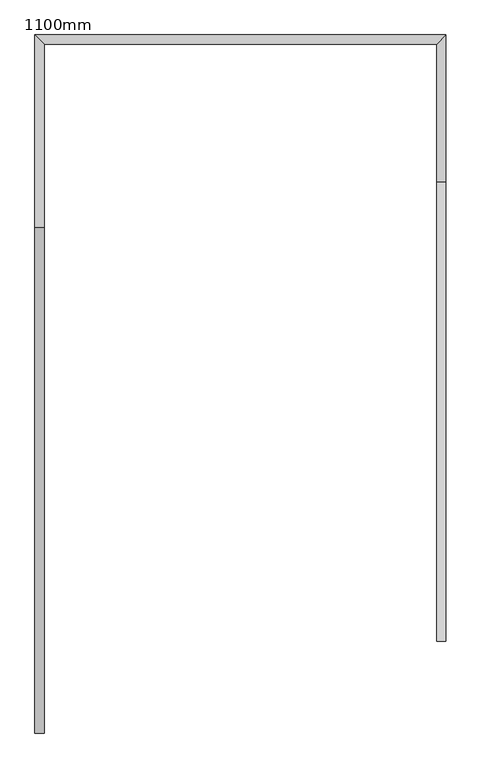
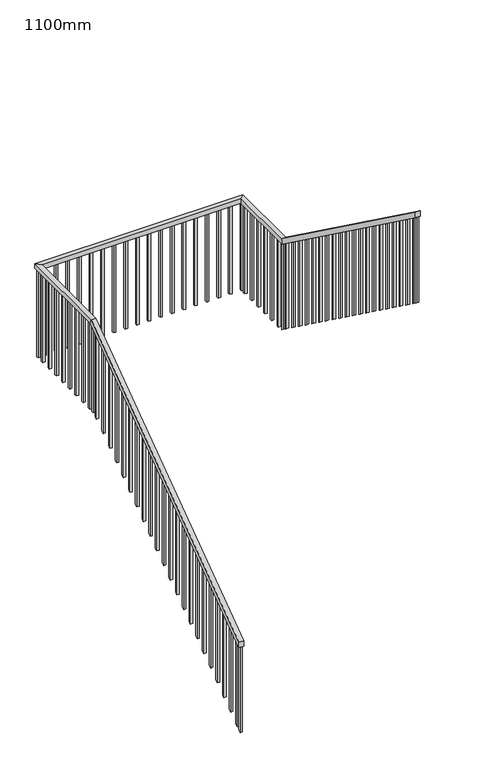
"""IFC4 building model written with IfcOpenShell, lengths in millimetres: railing geometry, 1100mm."""

from ifc_helpers import new_model, si_unit, frame, origin, place, context, project, spatial, polyline, outline, extrude, faceted_brep, source, transform, mapped, element, save


def railing_1100mm_276dff7a(model_context):
    return source(origin(), model_context, "Body", "SolidModel", [
        faceted_brep([(34182.0703633, 2041.5551306, 1281.8181818), (34182.0703633, 2041.5551306, 1219.9933159), (34232.0703633, 2041.5551306, 1219.9933159), (34232.0703633, 2041.5551306, 1281.8181818), (34182.0703633, 4791.5551306, 3281.8181818), (34182.0703633, 4807.8143213, 3231.8181818), (34232.0703633, 4807.8143213, 3231.8181818), (34232.0703633, 4791.5551306, 3281.8181818), (34182.0703633, 5841.5551306, 3281.8181818), (34182.0703633, 5841.5551306, 3231.8181818), (34232.0703633, 5791.5551306, 3231.8181818), (34232.0703633, 5791.5551306, 3281.8181818), (36419.9255273, 5841.5551306, 3281.8181818), (36419.9255273, 5841.5551306, 3231.8181818), (36369.9255273, 5791.5551306, 3231.8181818), (36369.9255273, 5791.5551306, 3281.8181818), (36419.9255273, 5041.5551306, 3281.8181818), (36419.9255273, 5025.2959399, 3231.8181818), (36369.9255273, 5025.2959399, 3231.8181818), (36369.9255273, 5041.5551306, 3281.8181818), (36419.9255273, 2541.5551306, 5100.0), (36369.9255273, 2541.5551306, 5100.0), (36369.9255273, 2541.5551306, 5038.1751341), (36419.9255273, 2541.5551306, 5038.1751341)], [[[0, 1, 2, 3]], [[1, 0, 4, 5]], [[2, 1, 5, 6]], [[3, 2, 6, 7]], [[0, 3, 7, 4]], [[5, 4, 8, 9]], [[6, 5, 9, 10]], [[7, 6, 10, 11]], [[4, 7, 11, 8]], [[9, 8, 12, 13]], [[10, 9, 13, 14]], [[11, 10, 14, 15]], [[8, 11, 15, 12]], [[13, 12, 16, 17]], [[14, 13, 17, 18]], [[15, 14, 18, 19]], [[12, 15, 19, 16]], [[20, 21, 22, 23]], [[17, 16, 20, 23]], [[18, 17, 23, 22]], [[19, 18, 22, 21]], [[16, 19, 21, 20]]]),
        extrude(outline(polyline([(2616.5551306, 4011.1967897), (2591.5551306, 4029.3786078), (2591.5551306, 5001.8114977), (2616.5551306, 4983.6296795), (2616.5551306, 4011.1967897)])), frame((36382.4255273, 0.0, 0.0), z_axis=(1.0, 0.0, 0.0), x_axis=(0.0, 1.0, 0.0)), (0.0, 0.0, 1.0), 25.0),
        extrude(outline(polyline([(2741.5551306, 3920.2876987), (2716.5551306, 3938.4695169), (2716.5551306, 4910.9024068), (2741.5551306, 4892.7205886), (2741.5551306, 3920.2876987)])), frame((36382.4255273, 0.0, 0.0), z_axis=(1.0, 0.0, 0.0), x_axis=(0.0, 1.0, 0.0)), (0.0, 0.0, 1.0), 25.0),
        extrude(outline(polyline([(2866.5551306, 3829.3786078), (2841.5551306, 3847.560426), (2841.5551306, 4819.9933159), (2866.5551306, 4801.8114977), (2866.5551306, 3829.3786078)])), frame((36382.4255273, 0.0, 0.0), z_axis=(1.0, 0.0, 0.0), x_axis=(0.0, 1.0, 0.0)), (0.0, 0.0, 1.0), 25.0),
        extrude(outline(polyline([(2991.5551306, 3738.4695169), (2966.5551306, 3756.6513351), (2966.5551306, 4729.084225), (2991.5551306, 4710.9024068), (2991.5551306, 3738.4695169)])), frame((36382.4255273, 0.0, 0.0), z_axis=(1.0, 0.0, 0.0), x_axis=(0.0, 1.0, 0.0)), (0.0, 0.0, 1.0), 25.0),
        extrude(outline(polyline([(3116.5551306, 3647.560426), (3091.5551306, 3665.7422442), (3091.5551306, 4638.1751341), (3116.5551306, 4619.9933159), (3116.5551306, 3647.560426)])), frame((36382.4255273, 0.0, 0.0), z_axis=(1.0, 0.0, 0.0), x_axis=(0.0, 1.0, 0.0)), (0.0, 0.0, 1.0), 25.0),
        extrude(outline(polyline([(3241.5551306, 3556.6513351), (3216.5551306, 3574.8331533), (3216.5551306, 4547.2660431), (3241.5551306, 4529.084225), (3241.5551306, 3556.6513351)])), frame((36382.4255273, 0.0, 0.0), z_axis=(1.0, 0.0, 0.0), x_axis=(0.0, 1.0, 0.0)), (0.0, 0.0, 1.0), 25.0),
        extrude(outline(polyline([(3366.5551306, 3465.7422442), (3341.5551306, 3483.9240624), (3341.5551306, 4456.3569522), (3366.5551306, 4438.1751341), (3366.5551306, 3465.7422442)])), frame((36382.4255273, 0.0, 0.0), z_axis=(1.0, 0.0, 0.0), x_axis=(0.0, 1.0, 0.0)), (0.0, 0.0, 1.0), 25.0),
        extrude(outline(polyline([(3491.5551306, 3374.8331533), (3466.5551306, 3393.0149715), (3466.5551306, 4365.4478613), (3491.5551306, 4347.2660431), (3491.5551306, 3374.8331533)])), frame((36382.4255273, 0.0, 0.0), z_axis=(1.0, 0.0, 0.0), x_axis=(0.0, 1.0, 0.0)), (0.0, 0.0, 1.0), 25.0),
        extrude(outline(polyline([(3616.5551306, 3283.9240624), (3591.5551306, 3302.1058806), (3591.5551306, 4274.5387704), (3616.5551306, 4256.3569522), (3616.5551306, 3283.9240624)])), frame((36382.4255273, 0.0, 0.0), z_axis=(1.0, 0.0, 0.0), x_axis=(0.0, 1.0, 0.0)), (0.0, 0.0, 1.0), 25.0),
        extrude(outline(polyline([(3741.5551306, 3193.0149715), (3716.5551306, 3211.1967897), (3716.5551306, 4183.6296795), (3741.5551306, 4165.4478613), (3741.5551306, 3193.0149715)])), frame((36382.4255273, 0.0, 0.0), z_axis=(1.0, 0.0, 0.0), x_axis=(0.0, 1.0, 0.0)), (0.0, 0.0, 1.0), 25.0),
        extrude(outline(polyline([(3866.5551306, 3102.1058806), (3841.5551306, 3120.2876987), (3841.5551306, 4092.7205886), (3866.5551306, 4074.5387704), (3866.5551306, 3102.1058806)])), frame((36382.4255273, 0.0, 0.0), z_axis=(1.0, 0.0, 0.0), x_axis=(0.0, 1.0, 0.0)), (0.0, 0.0, 1.0), 25.0),
        extrude(outline(polyline([(3991.5551306, 3011.1967897), (3966.5551306, 3029.3786078), (3966.5551306, 4001.8114977), (3991.5551306, 3983.6296795), (3991.5551306, 3011.1967897)])), frame((36382.4255273, 0.0, 0.0), z_axis=(1.0, 0.0, 0.0), x_axis=(0.0, 1.0, 0.0)), (0.0, 0.0, 1.0), 25.0),
        extrude(outline(polyline([(4116.5551306, 2920.2876987), (4091.5551306, 2938.4695169), (4091.5551306, 3910.9024068), (4116.5551306, 3892.7205886), (4116.5551306, 2920.2876987)])), frame((36382.4255273, 0.0, 0.0), z_axis=(1.0, 0.0, 0.0), x_axis=(0.0, 1.0, 0.0)), (0.0, 0.0, 1.0), 25.0),
        extrude(outline(polyline([(4241.5551306, 2829.3786078), (4216.5551306, 2847.560426), (4216.5551306, 3819.9933159), (4241.5551306, 3801.8114977), (4241.5551306, 2829.3786078)])), frame((36382.4255273, 0.0, 0.0), z_axis=(1.0, 0.0, 0.0), x_axis=(0.0, 1.0, 0.0)), (0.0, 0.0, 1.0), 25.0),
        extrude(outline(polyline([(4366.5551306, 2738.4695169), (4341.5551306, 2756.6513351), (4341.5551306, 3729.084225), (4366.5551306, 3710.9024068), (4366.5551306, 2738.4695169)])), frame((36382.4255273, 0.0, 0.0), z_axis=(1.0, 0.0, 0.0), x_axis=(0.0, 1.0, 0.0)), (0.0, 0.0, 1.0), 25.0),
        extrude(outline(polyline([(4491.5551306, 2647.560426), (4466.5551306, 2665.7422442), (4466.5551306, 3638.1751341), (4491.5551306, 3619.9933159), (4491.5551306, 2647.560426)])), frame((36382.4255273, 0.0, 0.0), z_axis=(1.0, 0.0, 0.0), x_axis=(0.0, 1.0, 0.0)), (0.0, 0.0, 1.0), 25.0),
        extrude(outline(polyline([(4616.5551306, 2556.6513351), (4591.5551306, 2574.8331533), (4591.5551306, 3547.2660431), (4616.5551306, 3529.084225), (4616.5551306, 2556.6513351)])), frame((36382.4255273, 0.0, 0.0), z_axis=(1.0, 0.0, 0.0), x_axis=(0.0, 1.0, 0.0)), (0.0, 0.0, 1.0), 25.0),
        extrude(outline(polyline([(4741.5551306, 2465.7422442), (4716.5551306, 2483.9240624), (4716.5551306, 3456.3569522), (4741.5551306, 3438.1751341), (4741.5551306, 2465.7422442)])), frame((36382.4255273, 0.0, 0.0), z_axis=(1.0, 0.0, 0.0), x_axis=(0.0, 1.0, 0.0)), (0.0, 0.0, 1.0), 25.0),
        extrude(outline(polyline([(4866.5551306, 2374.8331533), (4841.5551306, 2393.0149715), (4841.5551306, 3365.4478613), (4866.5551306, 3347.2660431), (4866.5551306, 2374.8331533)])), frame((36382.4255273, 0.0, 0.0), z_axis=(1.0, 0.0, 0.0), x_axis=(0.0, 1.0, 0.0)), (0.0, 0.0, 1.0), 25.0),
        extrude(outline(polyline([(4991.5551306, 2283.9240624), (4966.5551306, 2302.1058806), (4966.5551306, 3274.5387704), (4991.5551306, 3256.3569522), (4991.5551306, 2283.9240624)])), frame((36382.4255273, 0.0, 0.0), z_axis=(1.0, 0.0, 0.0), x_axis=(0.0, 1.0, 0.0)), (0.0, 0.0, 1.0), 25.0),
        extrude(outline(polyline([(36407.4255273, 5141.5551306), (36407.4255273, 5116.5551306), (36382.4255273, 5116.5551306), (36382.4255273, 5141.5551306), (36407.4255273, 5141.5551306)])), frame((0.0, 0.0, 2228.5473649), z_axis=(0.0, 0.0, 1.0), x_axis=(1.0, 0.0, 0.0)), (0.0, 0.0, 1.0), 1003.2708169),
        extrude(outline(polyline([(36407.4255273, 5266.5551306), (36407.4255273, 5241.5551306), (36382.4255273, 5241.5551306), (36382.4255273, 5266.5551306), (36407.4255273, 5266.5551306)])), frame((0.0, 0.0, 2228.5473649), z_axis=(0.0, 0.0, 1.0), x_axis=(1.0, 0.0, 0.0)), (0.0, 0.0, 1.0), 1003.2708169),
        extrude(outline(polyline([(36407.4255273, 5391.5551306), (36407.4255273, 5366.5551306), (36382.4255273, 5366.5551306), (36382.4255273, 5391.5551306), (36407.4255273, 5391.5551306)])), frame((0.0, 0.0, 2228.5473649), z_axis=(0.0, 0.0, 1.0), x_axis=(1.0, 0.0, 0.0)), (0.0, 0.0, 1.0), 1003.2708169),
        extrude(outline(polyline([(36407.4255273, 5516.5551306), (36407.4255273, 5491.5551306), (36382.4255273, 5491.5551306), (36382.4255273, 5516.5551306), (36407.4255273, 5516.5551306)])), frame((0.0, 0.0, 2228.5473649), z_axis=(0.0, 0.0, 1.0), x_axis=(1.0, 0.0, 0.0)), (0.0, 0.0, 1.0), 1003.2708169),
        extrude(outline(polyline([(36407.4255273, 5641.5551306), (36407.4255273, 5616.5551306), (36382.4255273, 5616.5551306), (36382.4255273, 5641.5551306), (36407.4255273, 5641.5551306)])), frame((0.0, 0.0, 2228.5473649), z_axis=(0.0, 0.0, 1.0), x_axis=(1.0, 0.0, 0.0)), (0.0, 0.0, 1.0), 1003.2708169),
        extrude(outline(polyline([(36407.4255273, 5766.5551306), (36407.4255273, 5741.5551306), (36382.4255273, 5741.5551306), (36382.4255273, 5766.5551306), (36407.4255273, 5766.5551306)])), frame((0.0, 0.0, 2228.5473649), z_axis=(0.0, 0.0, 1.0), x_axis=(1.0, 0.0, 0.0)), (0.0, 0.0, 1.0), 1003.2708169),
        extrude(outline(polyline([(36382.0703633, 5829.0551306), (36407.0703633, 5829.0551306), (36407.0703633, 5804.0551306), (36382.0703633, 5804.0551306), (36382.0703633, 5829.0551306)])), frame((0.0, 0.0, 2228.5473649), z_axis=(0.0, 0.0, 1.0), x_axis=(1.0, 0.0, 0.0)), (0.0, 0.0, 1.0), 1003.2708169),
        extrude(outline(polyline([(36257.0703633, 5829.0551306), (36282.0703633, 5829.0551306), (36282.0703633, 5804.0551306), (36257.0703633, 5804.0551306), (36257.0703633, 5829.0551306)])), frame((0.0, 0.0, 2228.5473649), z_axis=(0.0, 0.0, 1.0), x_axis=(1.0, 0.0, 0.0)), (0.0, 0.0, 1.0), 1003.2708169),
        extrude(outline(polyline([(36132.0703633, 5829.0551306), (36157.0703633, 5829.0551306), (36157.0703633, 5804.0551306), (36132.0703633, 5804.0551306), (36132.0703633, 5829.0551306)])), frame((0.0, 0.0, 2228.5473649), z_axis=(0.0, 0.0, 1.0), x_axis=(1.0, 0.0, 0.0)), (0.0, 0.0, 1.0), 1003.2708169),
        extrude(outline(polyline([(36007.0703633, 5829.0551306), (36032.0703633, 5829.0551306), (36032.0703633, 5804.0551306), (36007.0703633, 5804.0551306), (36007.0703633, 5829.0551306)])), frame((0.0, 0.0, 2228.5473649), z_axis=(0.0, 0.0, 1.0), x_axis=(1.0, 0.0, 0.0)), (0.0, 0.0, 1.0), 1003.2708169),
        extrude(outline(polyline([(35882.0703633, 5829.0551306), (35907.0703633, 5829.0551306), (35907.0703633, 5804.0551306), (35882.0703633, 5804.0551306), (35882.0703633, 5829.0551306)])), frame((0.0, 0.0, 2228.5473649), z_axis=(0.0, 0.0, 1.0), x_axis=(1.0, 0.0, 0.0)), (0.0, 0.0, 1.0), 1003.2708169),
        extrude(outline(polyline([(35757.0703633, 5829.0551306), (35782.0703633, 5829.0551306), (35782.0703633, 5804.0551306), (35757.0703633, 5804.0551306), (35757.0703633, 5829.0551306)])), frame((0.0, 0.0, 2228.5473649), z_axis=(0.0, 0.0, 1.0), x_axis=(1.0, 0.0, 0.0)), (0.0, 0.0, 1.0), 1003.2708169),
        extrude(outline(polyline([(35632.0703633, 5829.0551306), (35657.0703633, 5829.0551306), (35657.0703633, 5804.0551306), (35632.0703633, 5804.0551306), (35632.0703633, 5829.0551306)])), frame((0.0, 0.0, 2228.5473649), z_axis=(0.0, 0.0, 1.0), x_axis=(1.0, 0.0, 0.0)), (0.0, 0.0, 1.0), 1003.2708169),
        extrude(outline(polyline([(35507.0703633, 5829.0551306), (35532.0703633, 5829.0551306), (35532.0703633, 5804.0551306), (35507.0703633, 5804.0551306), (35507.0703633, 5829.0551306)])), frame((0.0, 0.0, 2228.5473649), z_axis=(0.0, 0.0, 1.0), x_axis=(1.0, 0.0, 0.0)), (0.0, 0.0, 1.0), 1003.2708169),
        extrude(outline(polyline([(35382.0703633, 5829.0551306), (35407.0703633, 5829.0551306), (35407.0703633, 5804.0551306), (35382.0703633, 5804.0551306), (35382.0703633, 5829.0551306)])), frame((0.0, 0.0, 2228.5473649), z_axis=(0.0, 0.0, 1.0), x_axis=(1.0, 0.0, 0.0)), (0.0, 0.0, 1.0), 1003.2708169),
        extrude(outline(polyline([(35257.0703633, 5829.0551306), (35282.0703633, 5829.0551306), (35282.0703633, 5804.0551306), (35257.0703633, 5804.0551306), (35257.0703633, 5829.0551306)])), frame((0.0, 0.0, 2228.5473649), z_axis=(0.0, 0.0, 1.0), x_axis=(1.0, 0.0, 0.0)), (0.0, 0.0, 1.0), 1003.2708169),
        extrude(outline(polyline([(35132.0703633, 5829.0551306), (35157.0703633, 5829.0551306), (35157.0703633, 5804.0551306), (35132.0703633, 5804.0551306), (35132.0703633, 5829.0551306)])), frame((0.0, 0.0, 2228.5473649), z_axis=(0.0, 0.0, 1.0), x_axis=(1.0, 0.0, 0.0)), (0.0, 0.0, 1.0), 1003.2708169),
        extrude(outline(polyline([(35007.0703633, 5829.0551306), (35032.0703633, 5829.0551306), (35032.0703633, 5804.0551306), (35007.0703633, 5804.0551306), (35007.0703633, 5829.0551306)])), frame((0.0, 0.0, 2228.5473649), z_axis=(0.0, 0.0, 1.0), x_axis=(1.0, 0.0, 0.0)), (0.0, 0.0, 1.0), 1003.2708169),
        extrude(outline(polyline([(34882.0703633, 5829.0551306), (34907.0703633, 5829.0551306), (34907.0703633, 5804.0551306), (34882.0703633, 5804.0551306), (34882.0703633, 5829.0551306)])), frame((0.0, 0.0, 2228.5473649), z_axis=(0.0, 0.0, 1.0), x_axis=(1.0, 0.0, 0.0)), (0.0, 0.0, 1.0), 1003.2708169),
        extrude(outline(polyline([(34757.0703633, 5829.0551306), (34782.0703633, 5829.0551306), (34782.0703633, 5804.0551306), (34757.0703633, 5804.0551306), (34757.0703633, 5829.0551306)])), frame((0.0, 0.0, 2228.5473649), z_axis=(0.0, 0.0, 1.0), x_axis=(1.0, 0.0, 0.0)), (0.0, 0.0, 1.0), 1003.2708169),
        extrude(outline(polyline([(34632.0703633, 5829.0551306), (34657.0703633, 5829.0551306), (34657.0703633, 5804.0551306), (34632.0703633, 5804.0551306), (34632.0703633, 5829.0551306)])), frame((0.0, 0.0, 2228.5473649), z_axis=(0.0, 0.0, 1.0), x_axis=(1.0, 0.0, 0.0)), (0.0, 0.0, 1.0), 1003.2708169),
        extrude(outline(polyline([(34507.0703633, 5829.0551306), (34532.0703633, 5829.0551306), (34532.0703633, 5804.0551306), (34507.0703633, 5804.0551306), (34507.0703633, 5829.0551306)])), frame((0.0, 0.0, 2228.5473649), z_axis=(0.0, 0.0, 1.0), x_axis=(1.0, 0.0, 0.0)), (0.0, 0.0, 1.0), 1003.2708169),
        extrude(outline(polyline([(34382.0703633, 5829.0551306), (34407.0703633, 5829.0551306), (34407.0703633, 5804.0551306), (34382.0703633, 5804.0551306), (34382.0703633, 5829.0551306)])), frame((0.0, 0.0, 2228.5473649), z_axis=(0.0, 0.0, 1.0), x_axis=(1.0, 0.0, 0.0)), (0.0, 0.0, 1.0), 1003.2708169),
        extrude(outline(polyline([(34257.0703633, 5829.0551306), (34282.0703633, 5829.0551306), (34282.0703633, 5804.0551306), (34257.0703633, 5804.0551306), (34257.0703633, 5829.0551306)])), frame((0.0, 0.0, 2228.5473649), z_axis=(0.0, 0.0, 1.0), x_axis=(1.0, 0.0, 0.0)), (0.0, 0.0, 1.0), 1003.2708169),
        extrude(outline(polyline([(34194.5703633, 5716.5551306), (34194.5703633, 5741.5551306), (34219.5703633, 5741.5551306), (34219.5703633, 5716.5551306), (34194.5703633, 5716.5551306)])), frame((0.0, 0.0, 2228.5473649), z_axis=(0.0, 0.0, 1.0), x_axis=(1.0, 0.0, 0.0)), (0.0, 0.0, 1.0), 1003.2708169),
        extrude(outline(polyline([(34194.5703633, 5591.5551306), (34194.5703633, 5616.5551306), (34219.5703633, 5616.5551306), (34219.5703633, 5591.5551306), (34194.5703633, 5591.5551306)])), frame((0.0, 0.0, 2228.5473649), z_axis=(0.0, 0.0, 1.0), x_axis=(1.0, 0.0, 0.0)), (0.0, 0.0, 1.0), 1003.2708169),
        extrude(outline(polyline([(34194.5703633, 5466.5551306), (34194.5703633, 5491.5551306), (34219.5703633, 5491.5551306), (34219.5703633, 5466.5551306), (34194.5703633, 5466.5551306)])), frame((0.0, 0.0, 2228.5473649), z_axis=(0.0, 0.0, 1.0), x_axis=(1.0, 0.0, 0.0)), (0.0, 0.0, 1.0), 1003.2708169),
        extrude(outline(polyline([(34194.5703633, 5341.5551306), (34194.5703633, 5366.5551306), (34219.5703633, 5366.5551306), (34219.5703633, 5341.5551306), (34194.5703633, 5341.5551306)])), frame((0.0, 0.0, 2228.5473649), z_axis=(0.0, 0.0, 1.0), x_axis=(1.0, 0.0, 0.0)), (0.0, 0.0, 1.0), 1003.2708169),
        extrude(outline(polyline([(34194.5703633, 5216.5551306), (34194.5703633, 5241.5551306), (34219.5703633, 5241.5551306), (34219.5703633, 5216.5551306), (34194.5703633, 5216.5551306)])), frame((0.0, 0.0, 2228.5473649), z_axis=(0.0, 0.0, 1.0), x_axis=(1.0, 0.0, 0.0)), (0.0, 0.0, 1.0), 1003.2708169),
        extrude(outline(polyline([(34194.5703633, 5091.5551306), (34194.5703633, 5116.5551306), (34219.5703633, 5116.5551306), (34219.5703633, 5091.5551306), (34194.5703633, 5091.5551306)])), frame((0.0, 0.0, 2228.5473649), z_axis=(0.0, 0.0, 1.0), x_axis=(1.0, 0.0, 0.0)), (0.0, 0.0, 1.0), 1003.2708169),
        extrude(outline(polyline([(34194.5703633, 4966.5551306), (34194.5703633, 4991.5551306), (34219.5703633, 4991.5551306), (34219.5703633, 4966.5551306), (34194.5703633, 4966.5551306)])), frame((0.0, 0.0, 2228.5473649), z_axis=(0.0, 0.0, 1.0), x_axis=(1.0, 0.0, 0.0)), (0.0, 0.0, 1.0), 1003.2708169),
        extrude(outline(polyline([(34194.5703633, 4841.5551306), (34194.5703633, 4866.5551306), (34219.5703633, 4866.5551306), (34219.5703633, 4841.5551306), (34194.5703633, 4841.5551306)])), frame((0.0, 0.0, 2228.5473649), z_axis=(0.0, 0.0, 1.0), x_axis=(1.0, 0.0, 0.0)), (0.0, 0.0, 1.0), 1003.2708169),
        extrude(outline(polyline([(4716.5551306, 3165.4478613), (4741.5551306, 3183.6296795), (4741.5551306, 2211.1967897), (4716.5551306, 2193.0149715), (4716.5551306, 3165.4478613)])), frame((34194.5703633, 0.0, 0.0), z_axis=(1.0, 0.0, 0.0), x_axis=(0.0, 1.0, 0.0)), (0.0, 0.0, 1.0), 25.0),
        extrude(outline(polyline([(4591.5551306, 3074.5387704), (4616.5551306, 3092.7205886), (4616.5551306, 2120.2876987), (4591.5551306, 2102.1058806), (4591.5551306, 3074.5387704)])), frame((34194.5703633, 0.0, 0.0), z_axis=(1.0, 0.0, 0.0), x_axis=(0.0, 1.0, 0.0)), (0.0, 0.0, 1.0), 25.0),
        extrude(outline(polyline([(4466.5551306, 2983.6296795), (4491.5551306, 3001.8114977), (4491.5551306, 2029.3786078), (4466.5551306, 2011.1967897), (4466.5551306, 2983.6296795)])), frame((34194.5703633, 0.0, 0.0), z_axis=(1.0, 0.0, 0.0), x_axis=(0.0, 1.0, 0.0)), (0.0, 0.0, 1.0), 25.0),
        extrude(outline(polyline([(4341.5551306, 2892.7205886), (4366.5551306, 2910.9024068), (4366.5551306, 1938.4695169), (4341.5551306, 1920.2876987), (4341.5551306, 2892.7205886)])), frame((34194.5703633, 0.0, 0.0), z_axis=(1.0, 0.0, 0.0), x_axis=(0.0, 1.0, 0.0)), (0.0, 0.0, 1.0), 25.0),
        extrude(outline(polyline([(4216.5551306, 2801.8114977), (4241.5551306, 2819.9933159), (4241.5551306, 1847.560426), (4216.5551306, 1829.3786078), (4216.5551306, 2801.8114977)])), frame((34194.5703633, 0.0, 0.0), z_axis=(1.0, 0.0, 0.0), x_axis=(0.0, 1.0, 0.0)), (0.0, 0.0, 1.0), 25.0),
        extrude(outline(polyline([(4091.5551306, 2710.9024068), (4116.5551306, 2729.084225), (4116.5551306, 1756.6513351), (4091.5551306, 1738.4695169), (4091.5551306, 2710.9024068)])), frame((34194.5703633, 0.0, 0.0), z_axis=(1.0, 0.0, 0.0), x_axis=(0.0, 1.0, 0.0)), (0.0, 0.0, 1.0), 25.0),
        extrude(outline(polyline([(3966.5551306, 2619.9933159), (3991.5551306, 2638.1751341), (3991.5551306, 1665.7422442), (3966.5551306, 1647.560426), (3966.5551306, 2619.9933159)])), frame((34194.5703633, 0.0, 0.0), z_axis=(1.0, 0.0, 0.0), x_axis=(0.0, 1.0, 0.0)), (0.0, 0.0, 1.0), 25.0),
        extrude(outline(polyline([(3841.5551306, 2529.084225), (3866.5551306, 2547.2660431), (3866.5551306, 1574.8331533), (3841.5551306, 1556.6513351), (3841.5551306, 2529.084225)])), frame((34194.5703633, 0.0, 0.0), z_axis=(1.0, 0.0, 0.0), x_axis=(0.0, 1.0, 0.0)), (0.0, 0.0, 1.0), 25.0),
        extrude(outline(polyline([(3716.5551306, 2438.1751341), (3741.5551306, 2456.3569522), (3741.5551306, 1483.9240624), (3716.5551306, 1465.7422442), (3716.5551306, 2438.1751341)])), frame((34194.5703633, 0.0, 0.0), z_axis=(1.0, 0.0, 0.0), x_axis=(0.0, 1.0, 0.0)), (0.0, 0.0, 1.0), 25.0),
        extrude(outline(polyline([(3591.5551306, 2347.2660431), (3616.5551306, 2365.4478613), (3616.5551306, 1393.0149715), (3591.5551306, 1374.8331533), (3591.5551306, 2347.2660431)])), frame((34194.5703633, 0.0, 0.0), z_axis=(1.0, 0.0, 0.0), x_axis=(0.0, 1.0, 0.0)), (0.0, 0.0, 1.0), 25.0),
        extrude(outline(polyline([(3466.5551306, 2256.3569522), (3491.5551306, 2274.5387704), (3491.5551306, 1302.1058806), (3466.5551306, 1283.9240624), (3466.5551306, 2256.3569522)])), frame((34194.5703633, 0.0, 0.0), z_axis=(1.0, 0.0, 0.0), x_axis=(0.0, 1.0, 0.0)), (0.0, 0.0, 1.0), 25.0),
        extrude(outline(polyline([(3341.5551306, 2165.4478613), (3366.5551306, 2183.6296795), (3366.5551306, 1211.1967897), (3341.5551306, 1193.0149715), (3341.5551306, 2165.4478613)])), frame((34194.5703633, 0.0, 0.0), z_axis=(1.0, 0.0, 0.0), x_axis=(0.0, 1.0, 0.0)), (0.0, 0.0, 1.0), 25.0),
        extrude(outline(polyline([(3216.5551306, 2074.5387704), (3241.5551306, 2092.7205886), (3241.5551306, 1120.2876987), (3216.5551306, 1102.1058806), (3216.5551306, 2074.5387704)])), frame((34194.5703633, 0.0, 0.0), z_axis=(1.0, 0.0, 0.0), x_axis=(0.0, 1.0, 0.0)), (0.0, 0.0, 1.0), 25.0),
        extrude(outline(polyline([(3091.5551306, 1983.6296795), (3116.5551306, 2001.8114977), (3116.5551306, 1029.3786078), (3091.5551306, 1011.1967897), (3091.5551306, 1983.6296795)])), frame((34194.5703633, 0.0, 0.0), z_axis=(1.0, 0.0, 0.0), x_axis=(0.0, 1.0, 0.0)), (0.0, 0.0, 1.0), 25.0),
        extrude(outline(polyline([(2966.5551306, 1892.7205886), (2991.5551306, 1910.9024068), (2991.5551306, 938.4695169), (2966.5551306, 920.2876987), (2966.5551306, 1892.7205886)])), frame((34194.5703633, 0.0, 0.0), z_axis=(1.0, 0.0, 0.0), x_axis=(0.0, 1.0, 0.0)), (0.0, 0.0, 1.0), 25.0),
        extrude(outline(polyline([(2841.5551306, 1801.8114977), (2866.5551306, 1819.9933159), (2866.5551306, 847.560426), (2841.5551306, 829.3786078), (2841.5551306, 1801.8114977)])), frame((34194.5703633, 0.0, 0.0), z_axis=(1.0, 0.0, 0.0), x_axis=(0.0, 1.0, 0.0)), (0.0, 0.0, 1.0), 25.0),
        extrude(outline(polyline([(2716.5551306, 1710.9024068), (2741.5551306, 1729.084225), (2741.5551306, 756.6513351), (2716.5551306, 738.4695169), (2716.5551306, 1710.9024068)])), frame((34194.5703633, 0.0, 0.0), z_axis=(1.0, 0.0, 0.0), x_axis=(0.0, 1.0, 0.0)), (0.0, 0.0, 1.0), 25.0),
        extrude(outline(polyline([(2591.5551306, 1619.9933159), (2616.5551306, 1638.1751341), (2616.5551306, 665.7422442), (2591.5551306, 647.560426), (2591.5551306, 1619.9933159)])), frame((34194.5703633, 0.0, 0.0), z_axis=(1.0, 0.0, 0.0), x_axis=(0.0, 1.0, 0.0)), (0.0, 0.0, 1.0), 25.0),
        extrude(outline(polyline([(2466.5551306, 1529.084225), (2491.5551306, 1547.2660431), (2491.5551306, 574.8331533), (2466.5551306, 556.6513351), (2466.5551306, 1529.084225)])), frame((34194.5703633, 0.0, 0.0), z_axis=(1.0, 0.0, 0.0), x_axis=(0.0, 1.0, 0.0)), (0.0, 0.0, 1.0), 25.0),
        extrude(outline(polyline([(2341.5551306, 1438.1751341), (2366.5551306, 1456.3569522), (2366.5551306, 483.9240624), (2341.5551306, 465.7422442), (2341.5551306, 1438.1751341)])), frame((34194.5703633, 0.0, 0.0), z_axis=(1.0, 0.0, 0.0), x_axis=(0.0, 1.0, 0.0)), (0.0, 0.0, 1.0), 25.0),
        extrude(outline(polyline([(2216.5551306, 1347.2660431), (2241.5551306, 1365.4478613), (2241.5551306, 393.0149715), (2216.5551306, 374.8331533), (2216.5551306, 1347.2660431)])), frame((34194.5703633, 0.0, 0.0), z_axis=(1.0, 0.0, 0.0), x_axis=(0.0, 1.0, 0.0)), (0.0, 0.0, 1.0), 25.0),
        extrude(outline(polyline([(2091.5551306, 1256.3569522), (2116.5551306, 1274.5387704), (2116.5551306, 302.1058806), (2091.5551306, 283.9240624), (2091.5551306, 1256.3569522)])), frame((34194.5703633, 0.0, 0.0), z_axis=(1.0, 0.0, 0.0), x_axis=(0.0, 1.0, 0.0)), (0.0, 0.0, 1.0), 25.0),
        extrude(outline(polyline([(5054.0551306, 2238.4695169), (5029.0551306, 2256.6513351), (5029.0551306, 3231.8181818), (5054.0551306, 3231.8181818), (5054.0551306, 2238.4695169)])), frame((36382.4255273, 0.0, 0.0), z_axis=(1.0, 0.0, 0.0), x_axis=(0.0, 1.0, 0.0)), (0.0, 0.0, 1.0), 25.0),
        extrude(outline(polyline([(36382.4255273, 5829.0551306), (36407.4255273, 5829.0551306), (36407.4255273, 5804.0551306), (36382.4255273, 5804.0551306), (36382.4255273, 5829.0551306)])), frame((0.0, 0.0, 2228.5473649), z_axis=(0.0, 0.0, 1.0), x_axis=(1.0, 0.0, 0.0)), (0.0, 0.0, 1.0), 1003.2708169),
        extrude(outline(polyline([(34194.5703633, 5804.0551306), (34194.5703633, 5829.0551306), (34219.5703633, 5829.0551306), (34219.5703633, 5804.0551306), (34194.5703633, 5804.0551306)])), frame((0.0, 0.0, 2228.5473649), z_axis=(0.0, 0.0, 1.0), x_axis=(1.0, 0.0, 0.0)), (0.0, 0.0, 1.0), 1003.2708169),
        extrude(outline(polyline([(4779.0551306, 3210.9024068), (4804.0551306, 3229.084225), (4804.0551306, 2228.5473649), (4779.0551306, 2228.5473649), (4779.0551306, 3210.9024068)])), frame((34194.5703633, 0.0, 0.0), z_axis=(1.0, 0.0, 0.0), x_axis=(0.0, 1.0, 0.0)), (0.0, 0.0, 1.0), 25.0),
        extrude(outline(polyline([(2566.5551306, 4047.560426), (2541.5551306, 4065.7422442), (2541.5551306, 5038.1751341), (2566.5551306, 5019.9933159), (2566.5551306, 4047.560426)])), frame((36382.4255273, 0.0, 0.0), z_axis=(1.0, 0.0, 0.0), x_axis=(0.0, 1.0, 0.0)), (0.0, 0.0, 1.0), 25.0),
        extrude(outline(polyline([(2041.5551306, 1219.9933159), (2066.5551306, 1238.1751341), (2066.5551306, 265.7422442), (2041.5551306, 247.560426), (2041.5551306, 1219.9933159)])), frame((34194.5703633, 0.0, 0.0), z_axis=(1.0, 0.0, 0.0), x_axis=(0.0, 1.0, 0.0)), (0.0, 0.0, 1.0), 25.0),
    ])


if __name__ == "__main__":
    model = new_model("IFC4")
    model_context = context("Model", 3, world=origin())
    ifc_project = project(units=[si_unit("LENGTHUNIT", "METRE", prefix="MILLI")], contexts=[model_context])
    site = spatial("IfcSite", under=ifc_project)
    building = spatial("IfcBuilding", under=site)
    placement = place(None, origin())
    railing_1100mm_shape = railing_1100mm_276dff7a(model_context)
    element("IfcRailing", 1, ObjectType="1100mm", at=placement, inside=building, context=model_context, shape_type="MappedRepresentation", body=[
        mapped(railing_1100mm_shape, transform((0.0, 0.0, 0.0), x_axis=(1.0, 0.0, 0.0), y_axis=(0.0, 1.0, 0.0), z_axis=(0.0, 0.0, 1.0))),
    ])
    save(model, "model.ifc")
